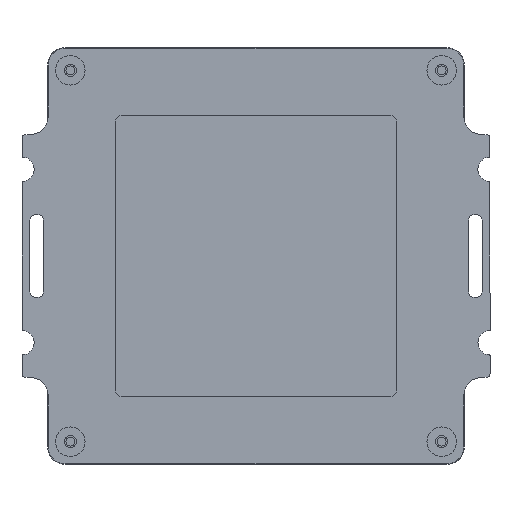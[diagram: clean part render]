
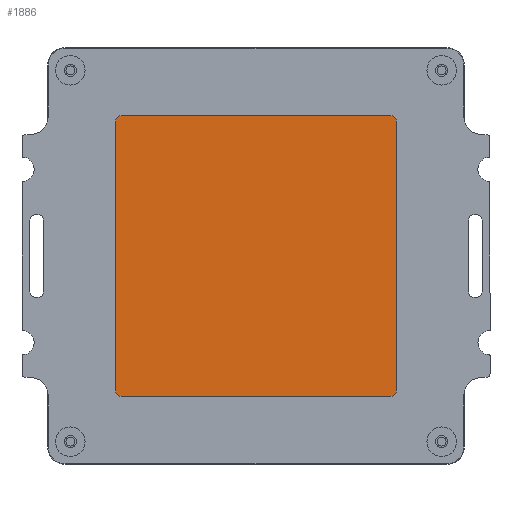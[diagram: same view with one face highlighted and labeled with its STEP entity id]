
A CAD part, front view. The second image highlights one B-rep face of the part: STEP entity #1886.
In plain terms, the highlighted planar face has unit normal (0, -1, 0) as drawn and (0, 1, 0) by its records, which use the part's own axes.
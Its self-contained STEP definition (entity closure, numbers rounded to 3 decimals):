
#107 = CARTESIAN_POINT ( 'NONE',  ( 8.776, 10., 86.371 ) ) ;
#661 = VECTOR ( 'NONE', #7854, 1000. ) ;
#769 = CARTESIAN_POINT ( 'NONE',  ( 8.776, 10., 86.371 ) ) ;
#851 = CARTESIAN_POINT ( 'NONE',  ( 87.776, 10., 86.371 ) ) ;
#1147 = ORIENTED_EDGE ( 'NONE', *, *, #2353, .T. ) ;
#1775 = EDGE_CURVE ( 'NONE', #5094, #25034, #14169, .T. ) ;
#1886 = ADVANCED_FACE ( 'NONE', ( #13092 ), #18744, .T. ) ;
#1896 = CARTESIAN_POINT ( 'NONE',  ( 85.776, 10., 7.376 ) ) ;
#2240 = DIRECTION ( 'NONE',  ( 0., 1., 0. ) ) ;
#2353 = EDGE_CURVE ( 'NONE', #22112, #4984, #20936, .T. ) ;
#2485 = VERTEX_POINT ( 'NONE', #23903 ) ;
#2905 = LINE ( 'NONE', #5015, #12461 ) ;
#3172 = VERTEX_POINT ( 'NONE', #851 ) ;
#3719 = CARTESIAN_POINT ( 'NONE',  ( 85.776, 10., 9.376 ) ) ;
#3913 = CARTESIAN_POINT ( 'NONE',  ( 85.776, 10., 86.371 ) ) ;
#4984 = VERTEX_POINT ( 'NONE', #1896 ) ;
#5015 = CARTESIAN_POINT ( 'NONE',  ( 8.776, 10., 88.371 ) ) ;
#5094 = VERTEX_POINT ( 'NONE', #25603 ) ;
#5252 = ORIENTED_EDGE ( 'NONE', *, *, #16308, .T. ) ;
#5985 = DIRECTION ( 'NONE',  ( 0., 0., 1. ) ) ;
#6167 = AXIS2_PLACEMENT_3D ( 'NONE', #3913, #17692, #23508 ) ;
#6474 = LINE ( 'NONE', #22764, #11387 ) ;
#7207 = LINE ( 'NONE', #24009, #7661 ) ;
#7661 = VECTOR ( 'NONE', #5985, 1000. ) ;
#7854 = DIRECTION ( 'NONE',  ( 0., 0., -1. ) ) ;
#8551 = CARTESIAN_POINT ( 'NONE',  ( 87.776, 10., 9.376 ) ) ;
#8995 = CARTESIAN_POINT ( 'NONE',  ( 85.776, 10., 88.371 ) ) ;
#9115 = EDGE_CURVE ( 'NONE', #3172, #22112, #15956, .T. ) ;
#9402 = VERTEX_POINT ( 'NONE', #18045 ) ;
#10912 = EDGE_CURVE ( 'NONE', #18050, #3172, #14525, .T. ) ;
#11387 = VECTOR ( 'NONE', #20785, 1000. ) ;
#11738 = DIRECTION ( 'NONE',  ( 0., 1., 0. ) ) ;
#12371 = CARTESIAN_POINT ( 'NONE',  ( 8.776, 10., 9.376 ) ) ;
#12461 = VECTOR ( 'NONE', #16804, 1000. ) ;
#13092 = FACE_OUTER_BOUND ( 'NONE', #23808, .T. ) ;
#13218 = EDGE_CURVE ( 'NONE', #25034, #18050, #2905, .T. ) ;
#13349 = AXIS2_PLACEMENT_3D ( 'NONE', #769, #20858, #16744 ) ;
#14119 = CARTESIAN_POINT ( 'NONE',  ( 87.776, 10., 9.376 ) ) ;
#14154 = ORIENTED_EDGE ( 'NONE', *, *, #13218, .T. ) ;
#14169 = CIRCLE ( 'NONE', #15840, 2. ) ;
#14525 = CIRCLE ( 'NONE', #6167, 2. ) ;
#14704 = ORIENTED_EDGE ( 'NONE', *, *, #10912, .T. ) ;
#15840 = AXIS2_PLACEMENT_3D ( 'NONE', #107, #20473, #24573 ) ;
#15956 = LINE ( 'NONE', #14119, #661 ) ;
#16265 = DIRECTION ( 'NONE',  ( 0., 0., -1. ) ) ;
#16308 = EDGE_CURVE ( 'NONE', #9402, #2485, #23942, .T. ) ;
#16583 = CARTESIAN_POINT ( 'NONE',  ( 8.776, 10., 88.371 ) ) ;
#16744 = DIRECTION ( 'NONE',  ( 0., 0., 1. ) ) ;
#16804 = DIRECTION ( 'NONE',  ( 1., 0., 0. ) ) ;
#16830 = EDGE_CURVE ( 'NONE', #4984, #9402, #6474, .T. ) ;
#17692 = DIRECTION ( 'NONE',  ( 0., 1., 0. ) ) ;
#18045 = CARTESIAN_POINT ( 'NONE',  ( 8.776, 10., 7.376 ) ) ;
#18050 = VERTEX_POINT ( 'NONE', #8995 ) ;
#18744 = PLANE ( 'NONE',  #13349 ) ;
#19889 = EDGE_CURVE ( 'NONE', #2485, #5094, #7207, .T. ) ;
#19997 = DIRECTION ( 'NONE',  ( 0., 0., 1. ) ) ;
#20473 = DIRECTION ( 'NONE',  ( 0., 1., 0. ) ) ;
#20785 = DIRECTION ( 'NONE',  ( -1., 0., 0. ) ) ;
#20858 = DIRECTION ( 'NONE',  ( 0., 1., 0. ) ) ;
#20936 = CIRCLE ( 'NONE', #22604, 2. ) ;
#22112 = VERTEX_POINT ( 'NONE', #8551 ) ;
#22604 = AXIS2_PLACEMENT_3D ( 'NONE', #3719, #11738, #19997 ) ;
#22764 = CARTESIAN_POINT ( 'NONE',  ( 8.776, 10., 7.376 ) ) ;
#23083 = AXIS2_PLACEMENT_3D ( 'NONE', #12371, #2240, #16265 ) ;
#23508 = DIRECTION ( 'NONE',  ( 0., 0., 1. ) ) ;
#23615 = ORIENTED_EDGE ( 'NONE', *, *, #19889, .T. ) ;
#23716 = ORIENTED_EDGE ( 'NONE', *, *, #9115, .T. ) ;
#23808 = EDGE_LOOP ( 'NONE', ( #25149, #14154, #14704, #23716, #1147, #24059, #5252, #23615 ) ) ;
#23903 = CARTESIAN_POINT ( 'NONE',  ( 6.776, 10., 9.376 ) ) ;
#23942 = CIRCLE ( 'NONE', #23083, 2. ) ;
#24009 = CARTESIAN_POINT ( 'NONE',  ( 6.776, 10., 9.376 ) ) ;
#24059 = ORIENTED_EDGE ( 'NONE', *, *, #16830, .T. ) ;
#24573 = DIRECTION ( 'NONE',  ( 0., 0., 1. ) ) ;
#25034 = VERTEX_POINT ( 'NONE', #16583 ) ;
#25149 = ORIENTED_EDGE ( 'NONE', *, *, #1775, .T. ) ;
#25603 = CARTESIAN_POINT ( 'NONE',  ( 6.776, 10., 86.371 ) ) ;
